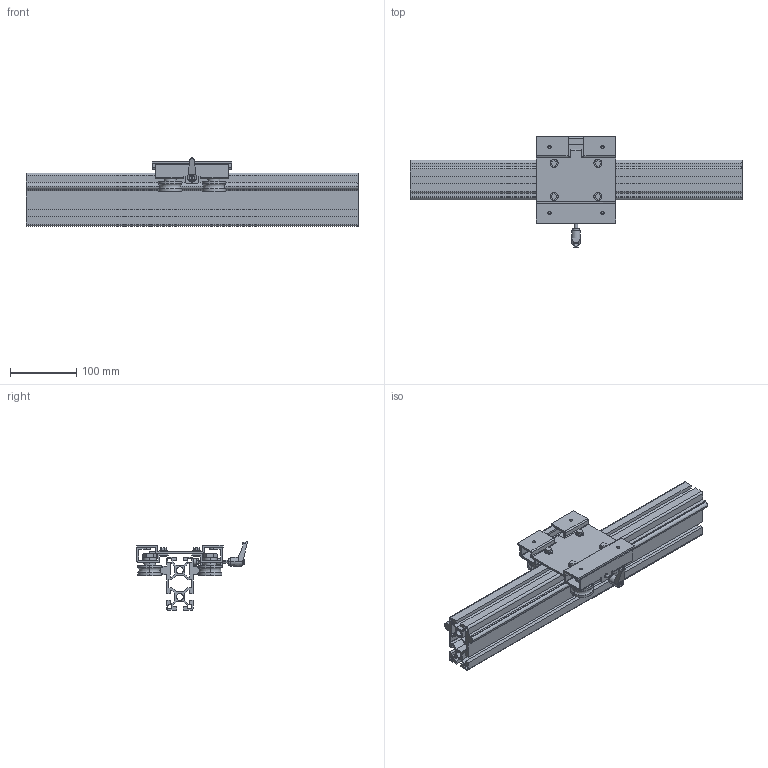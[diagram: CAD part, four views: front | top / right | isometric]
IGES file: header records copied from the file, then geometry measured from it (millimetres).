
Global section: file name: No Iges File Name specified; native system: AutoDesk Inventor R11.0; preprocessor: AutoDesk Inventor Iges Exporter R11.0; author: No Author specified; organization: No Organization specified; date: 20180803.161438; units: millimetre
Bounding box: 500 x 166.5 x 103.1 mm (x, y, z)
Surface area: 484269.9 mm2 (no closed solid volume)
Topology: 0 solids, 0 shells, 574 faces, 3610 edges, 3609 vertices
Faces by surface type: bspline 574
